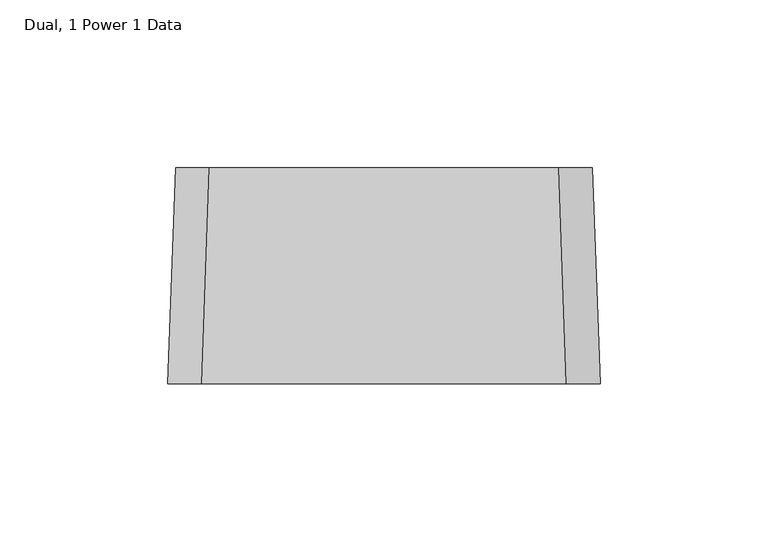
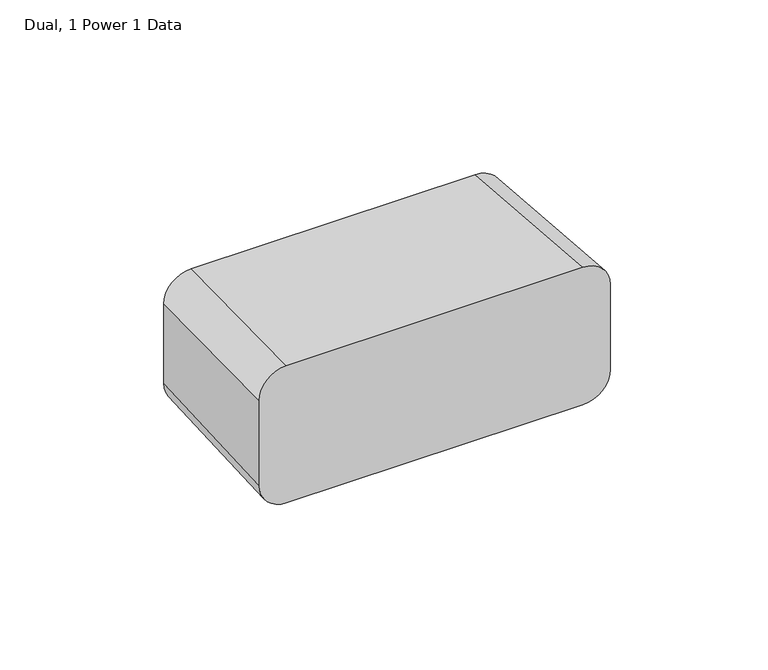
"""IFC4 building model written with IfcOpenShell, lengths in millimetres: proxy geometry, Accessory-Power_Cube-Teknion-Altos_Landscape-R2015 : Dual, 1 Power 1 Data."""

from ifc_helpers import new_model, si_unit, point, frame, origin, place, context, project, spatial, circle_curve, trimmed, source, transform, mapped, element, save
from ifc_brep_helpers import plane_surface, extruded_surface, advanced_brep


def dual_1_power_1_data_70394452(model_context):
    return source(origin(), model_context, "Body", "AdvancedBrep", [
        advanced_brep(
        [(64.29375, -121.025, 779.6349345), (54.2466533, -121.025, 789.6820312), (-54.2726563, -121.025, 789.6820312), (-64.29375, -121.025, 779.6609375), (-64.29375, -121.025, 746.6210938), (-54.2726563, -121.025, 736.6), (54.2726562, -121.025, 736.6), (64.29375, -121.025, 746.6210938), (62.0325311, -56.775, 777.3489345), (62.0325311, -56.775, 746.6210938), (52.0114374, -56.775, 736.6), (-52.0114374, -56.775, 736.6), (-62.0325311, -56.775, 746.6210938), (-62.0325311, -56.775, 777.3749375), (-52.0114374, -56.775, 787.3960312), (51.9854344, -56.775, 787.3960312)],
        [
            (0, 1, circle_curve(frame((54.2466533, -121.025, 779.6349345), z_axis=(0.0, -1.0, 0.0), x_axis=(1.0, 0.0, 0.0)), 10.0470967)),
            (1, 2),
            (2, 3, circle_curve(frame((-54.2726563, -121.025, 779.6609375), z_axis=(0.0, -1.0, 0.0), x_axis=(1.0, 0.0, 0.0)), 10.0210938)),
            (3, 4),
            (4, 5, circle_curve(frame((-54.2726563, -121.025, 746.6210938), z_axis=(0.0, -1.0, 0.0), x_axis=(1.0, 0.0, 0.0)), 10.0210938)),
            (5, 6),
            (6, 7, circle_curve(frame((54.2726562, -121.025, 746.6210938), z_axis=(0.0, -1.0, 0.0), x_axis=(1.0, 0.0, 0.0)), 10.0210938)),
            (7, 0),
            (8, 9),
            (9, 10, circle_curve(frame((52.0114374, -56.775, 746.6210938), z_axis=(0.0, 1.0, 0.0), x_axis=(1.0, 0.0, 0.0)), 10.0210938)),
            (10, 11),
            (11, 12, circle_curve(frame((-52.0114374, -56.775, 746.6210938), z_axis=(0.0, 1.0, 0.0), x_axis=(1.0, 0.0, 0.0)), 10.0210938)),
            (12, 13),
            (13, 14, circle_curve(frame((-52.0114374, -56.775, 777.3749375), z_axis=(0.0, 1.0, 0.0), x_axis=(1.0, 0.0, 0.0)), 10.0210938)),
            (14, 15),
            (15, 8, circle_curve(frame((51.9854344, -56.775, 777.3489345), z_axis=(0.0, 1.0, 0.0), x_axis=(1.0, 0.0, 0.0)), 10.0470967)),
            (15, 1),
            (0, 8),
            (14, 2),
            (13, 3),
            (12, 4),
            (11, 5),
            (10, 6),
            (9, 7),
        ],
        [
            plane_surface(frame((-0.0032504, -121.025, 763.1377653), z_axis=(0.0, -1.0, 0.0), x_axis=(0.0, 0.0, 1.0))),
            plane_surface(frame((-0.0032504, -56.775, 761.9947653), z_axis=(0.0, 1.0, 0.0), x_axis=(0.0, 0.0, 1.0))),
            extruded_surface(trimmed(circle_curve(frame((51.9854344, -56.775, 777.3489345), z_axis=(0.0, -1.0, 0.0), x_axis=(1.0, 0.0, 0.0)), 10.0470967), [point((62.0325311, -56.775, 777.3489345))], [point((51.9854344, -56.775, 787.3960312))], True, "CARTESIAN"), (2.261218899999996, -64.25, 2.2859999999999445), 64.33040810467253),
            plane_surface(frame((-0.0130015, -56.775, 787.3960312), z_axis=(0.0, 0.03555726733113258, 0.9993676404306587), x_axis=(-1.0, 0.0, 0.0))),
            extruded_surface(trimmed(circle_curve(frame((-52.0114374, -56.775, 777.3749375), z_axis=(0.0, -1.0, 0.0), x_axis=(1.0, 0.0, 0.0)), 10.0210938), [point((-52.0114374, -56.775, 787.3960312))], [point((-62.0325311, -56.775, 777.3749375))], True, "CARTESIAN"), (-2.261218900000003, -64.25, 2.286000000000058), 64.33040810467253),
            plane_surface(frame((-62.0325311, -56.775, 761.9980156), z_axis=(-0.9993812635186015, 0.03517229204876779, 0.0), x_axis=(0.0, 0.0, -1.0))),
            extruded_surface(trimmed(circle_curve(frame((-52.0114374, -56.775, 746.6210938), z_axis=(0.0, -1.0, 0.0), x_axis=(1.0, 0.0, 0.0)), 10.0210938), [point((-62.0325311, -56.775, 746.6210938))], [point((-52.0114374, -56.775, 736.6))], True, "CARTESIAN"), (-2.261218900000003, -64.25, 0.0), 64.28977843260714),
            plane_surface(frame((0.0, -56.775, 736.6), z_axis=(0.0, 0.0, -1.0), x_axis=(1.0, 0.0, 0.0))),
            extruded_surface(trimmed(circle_curve(frame((52.0114374, -56.775, 746.6210938), z_axis=(0.0, -1.0, 0.0), x_axis=(1.0, 0.0, 0.0)), 10.0210938), [point((52.0114374, -56.775, 736.6))], [point((62.0325311, -56.775, 746.6210938))], True, "CARTESIAN"), (2.2612188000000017, -64.25, 0.0), 64.2897784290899),
            plane_surface(frame((62.0325311, -56.775, 761.9850141), z_axis=(0.999381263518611, 0.03517229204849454, 0.0), x_axis=(0.0, 0.0, 1.0))),
        ],
        [
            (0, [[1, 2, 3, 4, 5, 6, 7, 8]]),
            (1, [[9, 10, 11, 12, 13, 14, 15, 16]]),
            (2, [[-16, 17, -1, 18]]),
            (3, [[-15, 19, -2, -17]]),
            (4, [[-14, 20, -3, -19]]),
            (5, [[-13, 21, -4, -20]]),
            (6, [[-12, 22, -5, -21]]),
            (7, [[-11, 23, -6, -22]]),
            (8, [[-10, 24, -7, -23]]),
            (9, [[-9, -18, -8, -24]]),
        ],
    ),
    ])


if __name__ == "__main__":
    model = new_model("IFC4")
    model_context = context("Model", 3, world=origin())
    ifc_project = project(units=[si_unit("LENGTHUNIT", "METRE", prefix="MILLI")], contexts=[model_context])
    site = spatial("IfcSite", under=ifc_project)
    building = spatial("IfcBuilding", under=site)
    placement = place(None, origin())
    dual_1_power_1_data_shape = dual_1_power_1_data_70394452(model_context)
    element("IfcBuildingElementProxy", 1, Name="Accessory-Power_Cube-Teknion-Altos_Landscape-R2015 : Dual, 1 Power 1 Data", ObjectType="Accessory-Power_Cube-Teknion-Altos_Landscape-R2015 : Dual, 1 Power 1 Data", at=placement, inside=building, context=model_context, shape_type="MappedRepresentation", body=[
        mapped(dual_1_power_1_data_shape, transform((0.0, 0.0, 0.0), x_axis=(1.0, 0.0, 0.0), y_axis=(0.0, 1.0, 0.0), z_axis=(0.0, 0.0, 1.0))),
    ])
    save(model, "model.ifc")
